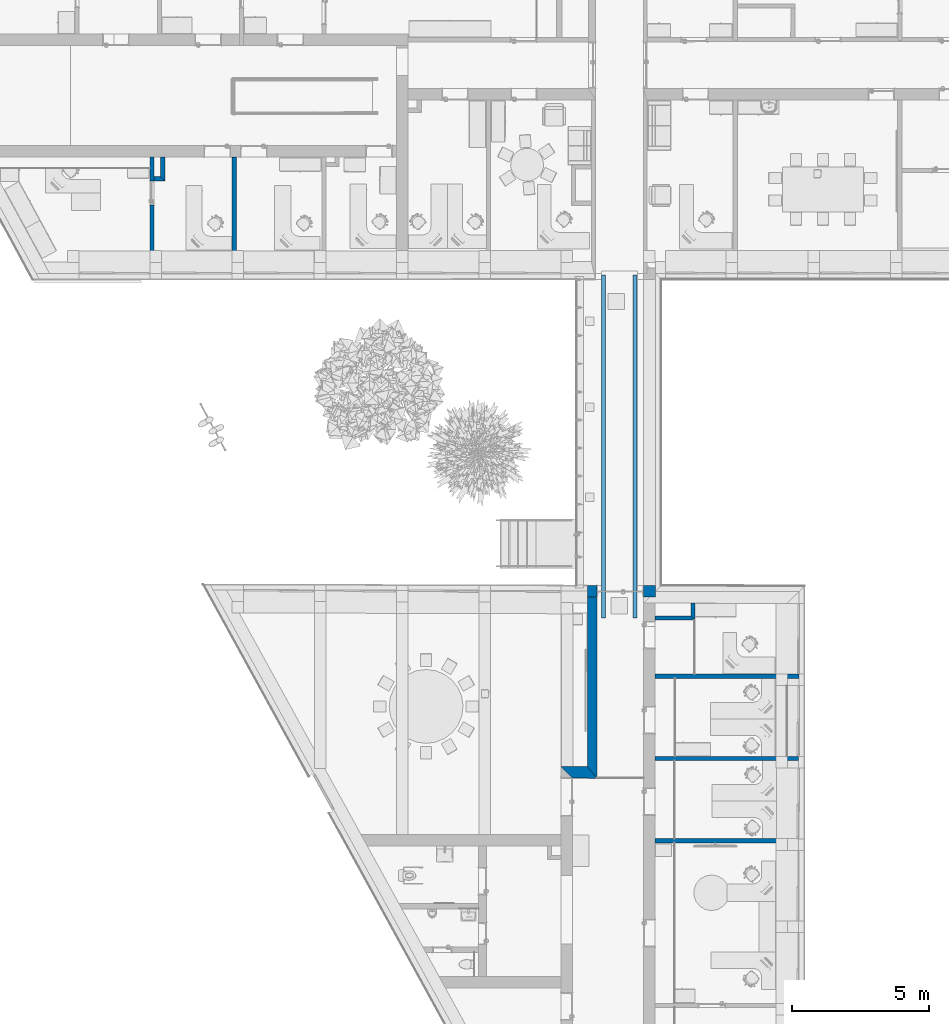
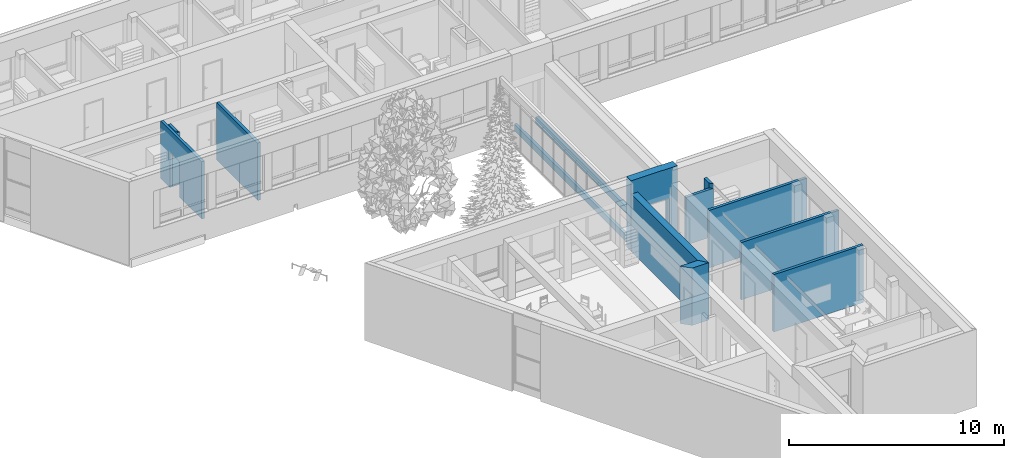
# One storey, part 4 of 194: 14 walls, 2 openings.
"""IFC2X3 building model written with IfcOpenShell, lengths in millimetres."""

import ifcopenshell
import ifcopenshell.guid

model = None  # the IFC model being written
_history = None  # IfcOwnerHistory: only IFC2X3 demands one
_inside = {}  # id of a spatial element -> (the spatial element, [elements in it])
_under = {}  # id of a project, library or spatial element -> (it, [spatial elements below it])
_declared = {}  # id of a project -> (the project, [libraries it declares])
_typed = {}  # id of a type object -> (the type object, [elements of that type])
_made_of = {}  # id of a material, layer set ... -> (it, [elements and type objects made of it])


def new_model(schema):
    """Start an empty IFC model of exactly this schema.

    Asked for "IFC4X3", IfcOpenShell would pick the latest addendum, in which some entities
    have other attributes; the version numbers below select the first issue.
    IFC2X3 requires an IfcOwnerHistory on every rooted entity: one is made here for all.
    """
    global model, _history
    if schema == "IFC4X3":
        model = ifcopenshell.file(schema_version=(4, 3, 0, 0))
    else:
        model = ifcopenshell.file(schema=schema)
    _inside.clear()
    _under.clear()
    _declared.clear()
    _typed.clear()
    _made_of.clear()
    _history = None
    if model.schema == "IFC2X3":
        org = make("IfcOrganization", Name="unknown")
        user = make(
            "IfcPersonAndOrganization",
            ThePerson=make("IfcPerson", FamilyName="unknown"),
            TheOrganization=org,
        )
        app = make(
            "IfcApplication",
            ApplicationDeveloper=org,
            Version="unknown",
            ApplicationFullName="unknown",
            ApplicationIdentifier="unknown",
        )
        _history = make(
            "IfcOwnerHistory",
            OwningUser=user,
            OwningApplication=app,
            ChangeAction="ADDED",
            CreationDate=0,
        )
    return model


def make(cls, **values):
    """One entity of the class cls with the attributes given. An attribute that is None is left unset."""
    return model.create_entity(
        cls, **{name: value for name, value in values.items() if value is not None}
    )


def entity(cls, *values):
    """Any entity or typed value of the class cls, its attributes in the order of the schema. None: left unset."""
    e = model.create_entity(cls)
    for i, value in enumerate(values):
        if value is not None:
            e[i] = value
    return e


def rooted(cls, **values):
    """An entity with a GlobalId (a new one), such as an element, a storey or a relation."""
    return make(cls, GlobalId=ifcopenshell.guid.new(), OwnerHistory=_history, **values)


def si_unit(unit_type, name, prefix=None):
    """IfcSIUnit, for example si_unit("LENGTHUNIT", "METRE", prefix="MILLI")."""
    return make("IfcSIUnit", UnitType=unit_type, Prefix=prefix, Name=name)


def converted_unit(unit_type, name, factor, base, dimensions=None, offset=None):
    """IfcConversionBasedUnit, such as the inch: factor (a typed value) times the base unit."""
    return make(
        "IfcConversionBasedUnit"
        if offset is None
        else "IfcConversionBasedUnitWithOffset",
        ConversionOffset=offset,
        Dimensions=None
        if dimensions is None
        else entity("IfcDimensionalExponents", *dimensions),
        UnitType=unit_type,
        Name=name,
        ConversionFactor=make(
            "IfcMeasureWithUnit", ValueComponent=factor, UnitComponent=base
        ),
    )


def derived_unit(unit_type, elements):
    """IfcDerivedUnit: a product of units, each with its exponent."""
    return make(
        "IfcDerivedUnit",
        Elements=[
            make("IfcDerivedUnitElement", Unit=unit, Exponent=power)
            for unit, power in elements
        ],
        UnitType=unit_type,
    )


def money_unit(currency):
    """IfcMonetaryUnit."""
    return make("IfcMonetaryUnit", Currency=currency)


def assignment(units):
    """IfcUnitAssignment: the units of a project."""
    return None if units is None else make("IfcUnitAssignment", Units=units)


def point(xyz):
    """IfcCartesianPoint."""
    return None if xyz is None else make("IfcCartesianPoint", Coordinates=xyz)


def direction(xyz):
    """IfcDirection."""
    return None if xyz is None else make("IfcDirection", DirectionRatios=xyz)


def frame(location, z_axis=None, x_axis=None):
    """IfcAxis2Placement3D, a coordinate frame: its origin and axes. An axis left out is left unset."""
    return make(
        "IfcAxis2Placement3D",
        Location=point(location),
        Axis=direction(z_axis),
        RefDirection=direction(x_axis),
    )


def frame_2d(location, x_axis=None):
    """IfcAxis2Placement2D, a coordinate frame in the plane: its origin and x axis."""
    return make(
        "IfcAxis2Placement2D", Location=point(location), RefDirection=direction(x_axis)
    )


def origin_with_axes():
    """The frame at (0, 0, 0) with the z axis (0, 0, 1) and the x axis (1, 0, 0) written out."""
    return frame((0.0, 0.0, 0.0), z_axis=(0.0, 0.0, 1.0), x_axis=(1.0, 0.0, 0.0))


def origin_2d_with_axis():
    """The frame at (0, 0) in the plane with the x axis (1, 0) written out."""
    return frame_2d((0.0, 0.0), x_axis=(1.0, 0.0))


def place(relative_to, where):
    """IfcLocalPlacement: puts the frame where relative to a parent placement (None: the world)."""
    return make(
        "IfcLocalPlacement", PlacementRelTo=relative_to, RelativePlacement=where
    )


def context(
    kind, dimensions, precision=None, world=None, true_north=None, identifier=None
):
    """IfcGeometricRepresentationContext, for example the 3D "Model" context."""
    return make(
        "IfcGeometricRepresentationContext",
        ContextIdentifier=identifier,
        ContextType=kind,
        CoordinateSpaceDimension=dimensions,
        Precision=precision,
        WorldCoordinateSystem=world,
        TrueNorth=true_north,
    )


def subcontext(parent, identifier, kind, view, scale=None):
    """IfcGeometricRepresentationSubContext, for example "Body" below "Model"."""
    return make(
        "IfcGeometricRepresentationSubContext",
        ContextIdentifier=identifier,
        ContextType=kind,
        ParentContext=parent,
        TargetScale=scale,
        TargetView=view,
    )


def project(units=None, contexts=None):
    """IfcProject with its units and contexts."""
    return rooted(
        "IfcProject",
        Name="project",
        RepresentationContexts=contexts,
        UnitsInContext=assignment(units),
    )


def spatial(cls, under=None, at=None, **own):
    """A site, building, storey or space (cls), placed at a placement, below another one or the project."""
    s = rooted(cls, ObjectPlacement=at, **own)
    if under is not None:
        _under.setdefault(under.id(), (under, []))[1].append(s)
    return s


def polyline(points):
    """IfcPolyline through the points."""
    return make("IfcPolyline", Points=[point(p) for p in points])


def profile(cls, at=None, kind="AREA", **sizes):
    """A parametric profile (cls). Its sizes go by their IFC names, for example OverallWidth=200.0."""
    return make(cls, ProfileType=kind, Position=at, **sizes)


def rectangle(**sizes):
    """IfcRectangleProfileDef."""
    return profile("IfcRectangleProfileDef", **sizes)


def outline(outer, holes=None, kind="AREA"):
    """IfcArbitraryClosedProfileDef: a profile drawn as a closed curve; with holes, ...WithVoids."""
    if holes is None:
        return make("IfcArbitraryClosedProfileDef", ProfileType=kind, OuterCurve=outer)
    return make(
        "IfcArbitraryProfileDefWithVoids",
        ProfileType=kind,
        OuterCurve=outer,
        InnerCurves=holes,
    )


def extrude(swept, where, along, depth):
    """IfcExtrudedAreaSolid: the profile swept, set in the frame where, extruded along a direction by depth."""
    return make(
        "IfcExtrudedAreaSolid",
        SweptArea=swept,
        Position=where,
        ExtrudedDirection=direction(along),
        Depth=depth,
    )


def shape(context_of_items, identifier, shape_type, items):
    """IfcShapeRepresentation: the items that make up one representation, for example the "Body"."""
    return make(
        "IfcShapeRepresentation",
        ContextOfItems=context_of_items,
        RepresentationIdentifier=identifier,
        RepresentationType=shape_type,
        Items=items,
    )


def material(Name=None, Category=None):
    """IfcMaterial."""
    return make("IfcMaterial", Name=Name, Category=Category)


def layer(
    of_material, thickness, ventilated=None, Name=None, Category=None, Priority=None
):
    """IfcMaterialLayer: one layer of a wall or slab, of a material (None: an air gap)."""
    return make(
        "IfcMaterialLayer",
        Material=of_material,
        LayerThickness=thickness,
        IsVentilated=ventilated,
        Name=Name,
        Category=Category,
        Priority=Priority,
    )


def layer_set(layers, Name=None):
    """IfcMaterialLayerSet."""
    return make("IfcMaterialLayerSet", MaterialLayers=layers, LayerSetName=Name)


def layer_usage(for_layer_set, set_direction, sense, offset, extent=None):
    """IfcMaterialLayerSetUsage: how a layer set lies in its element."""
    return make(
        "IfcMaterialLayerSetUsage",
        ForLayerSet=for_layer_set,
        LayerSetDirection=set_direction,
        DirectionSense=sense,
        OffsetFromReferenceLine=offset,
        ReferenceExtent=extent,
    )


def made_of(thing, what):
    """Note that an element or type object is made of a material, layer set ...; save() writes the relation."""
    if what is not None:
        _made_of.setdefault(what.id(), (what, []))[1].append(thing)
    return thing


def type_object(cls, material=None, **own):
    """A type object (cls), such as IfcWallType, which elements share."""
    return made_of(rooted(cls, **own), material)


def element(
    cls,
    number,
    at=None,
    inside=None,
    cuts=None,
    type_object=None,
    material=None,
    context=None,
    identifier="Body",
    shape_type=None,
    held_by="IfcProductDefinitionShape",
    body=None,
    shapes=None,
    **own,
):
    """One element of the class cls, such as IfcWall. Its Tag is "e" and its number.

    at: its placement. inside: the storey or other place that contains it. cuts: it is an
    opening in that element (IfcRelVoidsElement). A single representation is given by context,
    identifier, shape_type and body (its items); several are given by shapes. held_by: the class
    of the entity that holds the representations. save() writes the other relations.
    """
    e = rooted(cls, Tag="e%d" % number, ObjectPlacement=at, **own)
    if body is not None:
        shapes = [shape(context, identifier, shape_type, body)]
    if shapes is not None:
        e.Representation = make(held_by, Representations=shapes)
    if inside is not None:
        _inside.setdefault(inside.id(), (inside, []))[1].append(e)
    if cuts is not None:
        rooted(
            "IfcRelVoidsElement", RelatingBuildingElement=cuts, RelatedOpeningElement=e
        )
    if type_object is not None:
        _typed.setdefault(type_object.id(), (type_object, []))[1].append(e)
    return made_of(e, material)


def aggregate(whole, parts):
    """IfcRelAggregates: a whole, such as a stair, and the parts it consists of."""
    return rooted("IfcRelAggregates", RelatingObject=whole, RelatedObjects=parts)


def save(model, path):
    """Write the relations noted so far, then the file.

    IfcRelAggregates (storeys below a building ...), IfcRelContainedInSpatialStructure (elements
    in a storey), IfcRelDefinesByType, IfcRelAssociatesMaterial and IfcRelDeclares: one each for
    every whole, place, type object, material and project.
    """
    for whole, parts in _under.values():
        aggregate(whole, parts)
    for where, things in _inside.values():
        rooted(
            "IfcRelContainedInSpatialStructure",
            RelatedElements=things,
            RelatingStructure=where,
        )
    for kind, things in _typed.values():
        rooted("IfcRelDefinesByType", RelatedObjects=things, RelatingType=kind)
    for what, things in _made_of.values():
        rooted("IfcRelAssociatesMaterial", RelatedObjects=things, RelatingMaterial=what)
    for by, libraries in _declared.values():
        rooted("IfcRelDeclares", RelatingContext=by, RelatedDefinitions=libraries)
    model.write(path)


model = new_model("IFC2X3")

# Units and contexts
model_context = context("Model", 3, precision=1e-05, world=origin_with_axes(), true_north=direction((0.0, 1.0)))
body_context = subcontext(model_context, "Body", "Model", "MODEL_VIEW")
ifc_project = project(units=[si_unit("LENGTHUNIT", "METRE", prefix="MILLI"), si_unit("AREAUNIT", "SQUARE_METRE"), si_unit("VOLUMEUNIT", "CUBIC_METRE"), converted_unit("PLANEANGLEUNIT", "DEGREE", entity("IfcPlaneAngleMeasure", 0.0174532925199), si_unit("PLANEANGLEUNIT", "RADIAN"), dimensions=[0, 0, 0, 0, 0, 0, 0]), si_unit("SOLIDANGLEUNIT", "STERADIAN"), money_unit("EUR"), converted_unit("TIMEUNIT", "Year", entity("IfcTimeMeasure", 31556926.0), si_unit("TIMEUNIT", "SECOND"), dimensions=[0, 0, 1, 0, 0, 0, 0]), si_unit("MASSUNIT", "GRAM", prefix="KILO"), si_unit("THERMODYNAMICTEMPERATUREUNIT", "DEGREE_CELSIUS"), si_unit("LUMINOUSINTENSITYUNIT", "LUMEN"), si_unit("ENERGYUNIT", "JOULE", prefix="MEGA"), derived_unit("THERMALCONDUCTANCEUNIT", [(si_unit("POWERUNIT", "WATT"), 1), (si_unit("LENGTHUNIT", "METRE"), -1), (si_unit("THERMODYNAMICTEMPERATUREUNIT", "KELVIN"), -1)]), derived_unit("SPECIFICHEATCAPACITYUNIT", [(si_unit("ENERGYUNIT", "JOULE"), 1), (si_unit("MASSUNIT", "GRAM", prefix="KILO"), -1), (si_unit("THERMODYNAMICTEMPERATUREUNIT", "KELVIN"), -1)]), derived_unit("MASSDENSITYUNIT", [(si_unit("MASSUNIT", "GRAM", prefix="KILO"), 1), (si_unit("VOLUMEUNIT", "CUBIC_METRE"), -1)])], contexts=[model_context])

# Site, building, storey
site_placement = place(None, origin_with_axes())
site = spatial("IfcSite", under=ifc_project, at=site_placement, Name="Site", CompositionType="ELEMENT")
building_placement = place(site_placement, origin_with_axes())
building = spatial("IfcBuilding", under=site, at=building_placement, Name="Building", CompositionType="ELEMENT")
storey_placement = place(building_placement, frame((0.0, 0.0, 3000.0), z_axis=(0.0, 0.0, 1.0), x_axis=(1.0, 0.0, 0.0)))
storey = spatial("IfcBuildingStorey", under=building, at=storey_placement, Name="2 KORRUS", CompositionType="ELEMENT", Elevation=3000.0)

# Wall
ifc_material_1 = material(Name="Kivi -Ol.Olev Konstruktsioon")
ifc_layer_1 = layer(ifc_material_1, 150.0, ventilated="UNKNOWN")
ifc_layer_set_1 = layer_set([ifc_layer_1], Name="ol.olev ss 150")
ifc_layer_usage_1 = layer_usage(ifc_layer_set_1, "AXIS2", "POSITIVE", 0.0)
wall_type_1 = type_object("IfcWallType", Name="SW - 022", PredefinedType="NOTDEFINED")
wall_1_placement = place(storey_placement, frame((24735.1743177, 39014.3351234, 0.0), z_axis=(0.0, 0.0, 1.0), x_axis=(0.0, -1.0, 0.0)))
element("IfcWallStandardCase", 1, at=wall_1_placement, inside=storey, type_object=wall_type_1, material=ifc_layer_usage_1, Name="ol.olev ss 150", context=body_context, shape_type="SweptSolid", body=[
    extrude(outline(polyline([(420.0, 0.0), (4234.13803932, 0.0), (4234.12525275, 150.0), (420.0, 150.0), (420.0, 0.0)])), origin_with_axes(), (0.0, 0.0, 1.0), 3250.0),
])

# Wall, opening
ifc_layer_usage_2 = layer_usage(ifc_layer_set_1, "AXIS2", "POSITIVE", 0.0)
wall_2_placement = place(storey_placement, frame((21732.1185397, 39014.3351234, 0.0), z_axis=(0.0, 0.0, 1.0), x_axis=(0.000797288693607, -0.999999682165, 0.0)))
wall_2 = element("IfcWallStandardCase", 2, at=wall_2_placement, inside=storey, type_object=wall_type_1, material=ifc_layer_usage_2, Name="ol.olev ss 150", context=body_context, shape_type="SweptSolid", body=[
    extrude(outline(polyline([(420.000133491, 0.0), (4234.39508937, -1.13686837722e-10), (4234.50189613, 150.0), (420.119726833, 150.0), (420.000133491, 0.0)])), origin_with_axes(), (0.0, 0.0, 1.0), 3250.0),
])
opening_1_placement = place(wall_2_placement, frame((1722.56035025, 0.0, 0.0), z_axis=(0.0, 0.0, 1.0), x_axis=(1.0, 0.0, 0.0)))
element("IfcOpeningElement", 3, at=opening_1_placement, cuts=wall_2, Name="Siseuks * Door 22", context=body_context, shape_type="SweptSolid", body=[
    extrude(rectangle(XDim=870.0, YDim=2000.0, at=origin_2d_with_axis()), frame((-9.09494701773e-10, -150.0, 1000.0), z_axis=(0.0, 1.0, 0.0), x_axis=(-1.0, 0.0, 0.0)), (0.0, 0.0, 1.0), 450.0),
    extrude(rectangle(XDim=944.0, YDim=2037.0, at=origin_2d_with_axis()), frame((-9.09494701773e-10, 0.0, 1018.5), z_axis=(0.0, 1.0, 0.0), x_axis=(-1.0, 0.0, 0.0)), (0.0, 0.0, -1.0), 150.0),
    extrude(rectangle(XDim=944.0, YDim=2037.0, at=origin_2d_with_axis()), frame((0.0, 150.0, 1018.5), z_axis=(0.0, -1.0, 0.0), x_axis=(-1.0, 0.0, 0.0)), (0.0, 0.0, -1.0), 150.0),
])

ifc_layer_2 = layer(ifc_material_1, 420.0, ventilated="UNKNOWN")
ifc_layer_set_2 = layer_set([ifc_layer_2], Name="ol.olev ss 420")
ifc_layer_usage_3 = layer_usage(ifc_layer_set_2, "AXIS2", "NEGATIVE", 0.0)
wall_3_placement = place(storey_placement, frame((37688.0685274, 22969.0133978, 0.0), z_axis=(0.0, 0.0, 1.0), x_axis=(1.0, 0.0, 0.0)))
wall_3 = element("IfcWallStandardCase", 4, at=wall_3_placement, inside=storey, type_object=wall_type_1, material=ifc_layer_usage_3, Name="ol.olev ss 420", context=body_context, shape_type="SweptSolid", body=[
    extrude(outline(polyline([(0.0, -420.0), (2482.45478937, -420.0), (2482.45478937, 0.0), (0.0, 0.0), (0.0, -420.0)])), origin_with_axes(), (0.0, 0.0, 1.0), 4000.0),
])
opening_2_placement = place(wall_3_placement, frame((1198.52501508, 0.0, 0.0), z_axis=(0.0, 0.0, 1.0), x_axis=(1.0, 0.0, 0.0)))
element("IfcOpeningElement", 5, at=opening_2_placement, cuts=wall_3, Name="Siseuks * Double Door 22", context=body_context, shape_type="SweptSolid", body=[
    extrude(rectangle(XDim=1700.0, YDim=2300.0, at=origin_2d_with_axis()), frame((0.0, -200.0, 1150.0), z_axis=(0.0, 1.0, 0.0), x_axis=(1.0, 0.0, 0.0)), (0.0, 0.0, -1.0), 640.0),
    extrude(rectangle(XDim=1700.0, YDim=2300.0, at=origin_2d_with_axis()), frame((0.0, -200.0, 1150.0), z_axis=(0.0, -1.0, 0.0), x_axis=(1.0, 0.0, 0.0)), (0.0, 0.0, -1.0), 620.0),
    extrude(rectangle(XDim=1774.0, YDim=2337.0, at=origin_2d_with_axis()), frame((0.0, -420.0, 1168.5), z_axis=(0.0, 1.0, 0.0), x_axis=(1.0, 0.0, 0.0)), (0.0, 0.0, -1.0), 620.0),
    extrude(rectangle(XDim=1774.0, YDim=2337.0, at=origin_2d_with_axis()), frame((0.0, 0.0, 1168.5), z_axis=(0.0, -1.0, 0.0), x_axis=(1.0, 0.0, 0.0)), (0.0, 0.0, -1.0), 620.0),
])

# Walls
ifc_layer_usage_4 = layer_usage(ifc_layer_set_1, "AXIS2", "POSITIVE", -150.0)
wall_4_placement = place(storey_placement, frame((39738.0685274, 19740.1454838, 0.0), z_axis=(0.0, 0.0, 1.0), x_axis=(1.0, 0.0, 0.0)))
element("IfcWallStandardCase", 6, at=wall_4_placement, inside=storey, type_object=wall_type_1, material=ifc_layer_usage_4, Name="ol.olev ss 150", context=body_context, shape_type="SweptSolid", body=[
    extrude(outline(polyline([(420.0, -150.0), (5659.09316086, -150.0), (5659.09316086, 0.0), (420.0, 0.0), (420.0, -150.0)])), origin_with_axes(), (0.0, 0.0, 1.0), 3250.0),
])
ifc_layer_usage_5 = layer_usage(ifc_layer_set_1, "AXIS2", "POSITIVE", -150.0)
wall_5_placement = place(storey_placement, frame((39738.0685274, 16740.1444716, 0.0), z_axis=(0.0, 0.0, 1.0), x_axis=(1.0, 0.0, 0.0)))
element("IfcWallStandardCase", 7, at=wall_5_placement, inside=storey, type_object=wall_type_1, material=ifc_layer_usage_5, Name="ol.olev ss 150", context=body_context, shape_type="SweptSolid", body=[
    extrude(outline(polyline([(420.0, -150.0), (5657.42951209, -150.0), (5657.42951209, 0.0), (420.0, 0.0), (420.0, -150.0)])), origin_with_axes(), (0.0, 0.0, 1.0), 3250.0),
])
ifc_layer_usage_6 = layer_usage(ifc_layer_set_1, "AXIS2", "POSITIVE", -150.0)
wall_6_placement = place(storey_placement, frame((39738.0685274, 13740.1449345, 0.0), z_axis=(0.0, 0.0, 1.0), x_axis=(1.0, 0.0, 0.0)))
element("IfcWallStandardCase", 8, at=wall_6_placement, inside=storey, type_object=wall_type_1, material=ifc_layer_usage_6, Name="ol.olev ss 150", context=body_context, shape_type="SweptSolid", body=[
    extrude(outline(polyline([(420.0, -150.0), (5225.73322743, -150.0), (5225.81655939, 0.0), (420.0, 0.0), (420.0, -150.0)])), origin_with_axes(), (0.0, 0.0, 1.0), 3250.0),
])
ifc_layer_3 = layer(ifc_material_1, 350.0, ventilated="UNKNOWN")
ifc_layer_set_3 = layer_set([ifc_layer_3], Name="ol.olev ss 330")
ifc_layer_usage_7 = layer_usage(ifc_layer_set_3, "AXIS2", "POSITIVE", -350.0)
wall_type_2 = type_object("IfcWallType", Name="SW - 024", PredefinedType="NOTDEFINED")
wall_7_placement = place(storey_placement, frame((38038.0685274, 22969.0133978, 0.0), z_axis=(0.0, 0.0, 1.0), x_axis=(0.0, -1.0, 0.0)))
element("IfcWallStandardCase", 9, at=wall_7_placement, inside=storey, type_object=wall_type_2, material=ifc_layer_usage_7, Name="ol.olev ss 330", context=body_context, shape_type="SweptSolid", body=[
    extrude(outline(polyline([(420.0, -350.0), (6602.92044465, -350.0), (7023.50501387, 0.0), (420.0, 0.0), (420.0, -350.0)])), origin_with_axes(), (0.0, 0.0, 1.0), 3250.0),
])
ifc_layer_usage_8 = layer_usage(ifc_layer_set_2, "AXIS2", "POSITIVE", -420.0)
wall_type_3 = type_object("IfcWallType", Name="SW - 025", PredefinedType="NOTDEFINED")
wall_8_placement = place(storey_placement, frame((38038.0685274, 15945.5083839, 0.0), z_axis=(0.0, 0.0, 1.0), x_axis=(-0.999998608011, 0.00166852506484, 0.0)))
element("IfcWallStandardCase", 10, at=wall_8_placement, inside=storey, type_object=wall_type_3, material=ifc_layer_usage_8, Name="ol.olev ss 420", context=body_context, shape_type="SweptSolid", body=[
    extrude(outline(polyline([(350.701268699, -420.0), (1313.88782798, -419.999999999), (893.186461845, 0.0), (0.0, 0.0), (350.701268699, -420.0)])), origin_with_axes(), (0.0, 0.0, 1.0), 3250.0),
])
ifc_material_2 = material(Name="Kivi -  Uus Konstruktsioon")
ifc_layer_4 = layer(ifc_material_2, 150.0, ventilated="UNKNOWN")
ifc_layer_set_4 = layer_set([ifc_layer_4], Name="uus kinni ehitav sein 150")
ifc_layer_usage_9 = layer_usage(ifc_layer_set_4, "AXIS2", "POSITIVE", -150.0)
wall_type_4 = type_object("IfcWallType", Name="SS-3", PredefinedType="NOTDEFINED")
wall_9_placement = place(storey_placement, frame((39352.8565813, 21789.6325183, -455.0), z_axis=(0.0, 0.0, 1.0), x_axis=(0.0, 1.0, 0.0)))
element("IfcWallStandardCase", 11, at=wall_9_placement, inside=storey, type_object=wall_type_4, material=ifc_layer_usage_9, Name="sahti sein", context=body_context, shape_type="SweptSolid", body=[
    extrude(outline(polyline([(0.0, -150.0), (12500.0, -150.0), (12500.0, 0.0), (0.0, 0.0), (0.0, -150.0)])), origin_with_axes(), (0.0, 0.0, 1.0), 375.0),
])
ifc_layer_usage_10 = layer_usage(ifc_layer_set_4, "AXIS2", "POSITIVE", -150.0)
wall_type_5 = type_object("IfcWallType", Name="P-4", PredefinedType="NOTDEFINED")
wall_10_placement = place(storey_placement, frame((38352.8565813, 34289.6325183, -455.0), z_axis=(0.0, 0.0, 1.0), x_axis=(0.0, -1.0, 0.0)))
element("IfcWallStandardCase", 12, at=wall_10_placement, inside=storey, type_object=wall_type_5, material=ifc_layer_usage_10, Name="sahti sein", context=body_context, shape_type="SweptSolid", body=[
    extrude(outline(polyline([(0.0, -150.0), (12500.0, -150.0), (12500.0, 0.0), (0.0, 0.0), (0.0, -150.0)])), origin_with_axes(), (0.0, 0.0, 1.0), 375.0),
])
ifc_layer_5 = layer(ifc_material_2, 150.0, ventilated="UNKNOWN")
ifc_layer_set_5 = layer_set([ifc_layer_5], Name="uus ss 150")
ifc_layer_usage_11 = layer_usage(ifc_layer_set_5, "AXIS2", "POSITIVE", 0.0)
wall_type_6 = type_object("IfcWallType", Name="SS-1*", PredefinedType="NOTDEFINED")
wall_11_placement = place(storey_placement, frame((39738.0685274, 21713.1839442, 0.0), z_axis=(0.0, 0.0, 1.0), x_axis=(1.0, 0.0, 0.0)))
element("IfcWallStandardCase", 13, at=wall_11_placement, inside=storey, type_object=wall_type_6, material=ifc_layer_usage_11, Name="sahti sein", context=body_context, shape_type="SweptSolid", body=[
    extrude(outline(polyline([(420.0, 0.0), (1874.92450909, 0.0), (1724.92450909, 150.0), (420.0, 150.0), (420.0, 0.0)])), origin_with_axes(), (0.0, 0.0, 1.0), 2700.0),
])
ifc_layer_usage_12 = layer_usage(ifc_layer_set_5, "AXIS2", "POSITIVE", 0.0)
wall_12_placement = place(storey_placement, frame((41612.9930365, 21713.1839442, 0.0), z_axis=(0.0, 0.0, 1.0), x_axis=(0.0, 1.0, 0.0)))
element("IfcWallStandardCase", 14, at=wall_12_placement, inside=storey, type_object=wall_type_6, material=ifc_layer_usage_12, Name="sahti sein", context=body_context, shape_type="SweptSolid", body=[
    extrude(outline(polyline([(0.0, 0.0), (616.26194033, 0.0), (616.677263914, 150.0), (150.0, 150.0), (0.0, 0.0)])), origin_with_axes(), (0.0, 0.0, 1.0), 2970.0),
])
ifc_layer_usage_13 = layer_usage(ifc_layer_set_5, "AXIS2", "NEGATIVE", 0.0)
wall_13_placement = place(storey_placement, frame((22128.3443493, 37880.1094626, 0.0), z_axis=(0.0, 0.0, 1.0), x_axis=(0.0, 1.0, 0.0)))
element("IfcWallStandardCase", 15, at=wall_13_placement, inside=storey, type_object=wall_type_6, material=ifc_layer_usage_13, Name="sahti sein", context=body_context, shape_type="SweptSolid", body=[
    extrude(outline(polyline([(-149.880454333, -150.0), (714.225660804, -150.0), (714.225660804, 0.0), (-9.09494701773e-10, 0.0), (-149.880454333, -150.0)])), origin_with_axes(), (0.0, 0.0, 1.0), 2918.14929648),
])
ifc_layer_usage_14 = layer_usage(ifc_layer_set_5, "AXIS2", "NEGATIVE", 0.0)
wall_14_placement = place(storey_placement, frame((21733.0230966, 37879.7942773, 0.0), z_axis=(0.0, 0.0, 1.0), x_axis=(0.999999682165, 0.00079728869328, 0.0)))
element("IfcWallStandardCase", 16, at=wall_14_placement, inside=storey, type_object=wall_type_6, material=ifc_layer_usage_14, Name="sahti sein", context=body_context, shape_type="SweptSolid", body=[
    extrude(outline(polyline([(150.0, -150.000000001), (545.20183273, -150.000000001), (395.321378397, 0.0), (150.0, -9.09494701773e-10), (150.0, -150.000000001)])), origin_with_axes(), (0.0, 0.0, 1.0), 2970.0),
])

save(model, "model.ifc")
